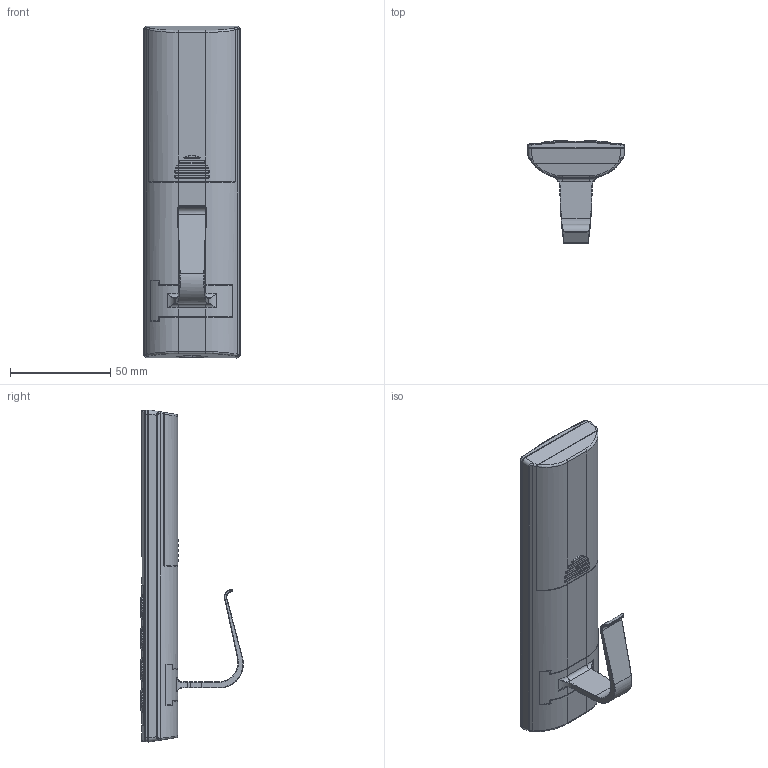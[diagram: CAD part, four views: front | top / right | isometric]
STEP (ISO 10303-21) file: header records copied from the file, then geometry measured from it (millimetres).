
FILE_DESCRIPTION((''),'2;1');
FILE_NAME('0128-ASM_ASM_10_ASM','2016-11-07T',('user'),(''),'PRO/ENGINEER BY PARAMETRIC TECHNOLOGY CORPORATION, 2008090','PRO/ENGINEER BY PARAMETRIC TECHNOLOGY CORPORATION, 2008090','');
FILE_SCHEMA(('CONFIG_CONTROL_DESIGN'));
Products named in the file (1): 0128-ASM_ASM_10_ASM
Bounding box: 48.07 x 51.11 x 165.32 mm (x, y, z)
Surface area: 69944 mm2 (no closed solid volume)
Topology: 0 solids, 11 shells, 2068 faces, 5563 edges, 3575 vertices
Faces by surface type: plane 1121, cylinder 470, bspline 240, torus 131, extrusion 64, cone 38, sphere 4
Entity records: 90140 total; most frequent: CARTESIAN_POINT 40492, ORIENTED_EDGE 11019, DIRECTION 9178, EDGE_CURVE 5553, VERTEX_POINT 3571, VECTOR 3300, LINE 3236, AXIS2_PLACEMENT_3D 2939
